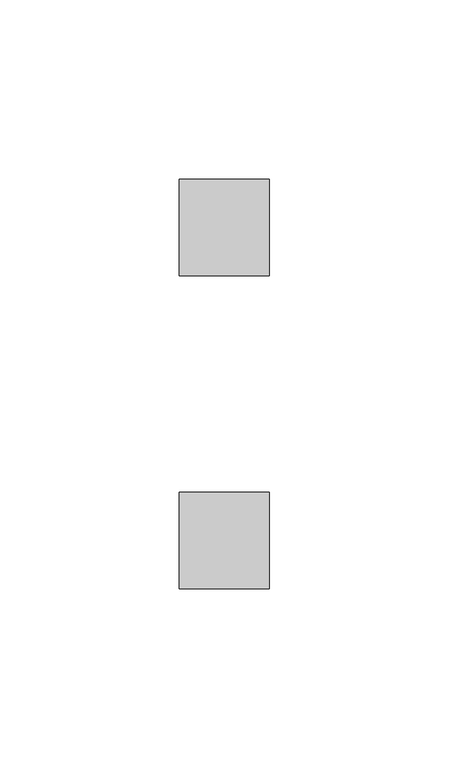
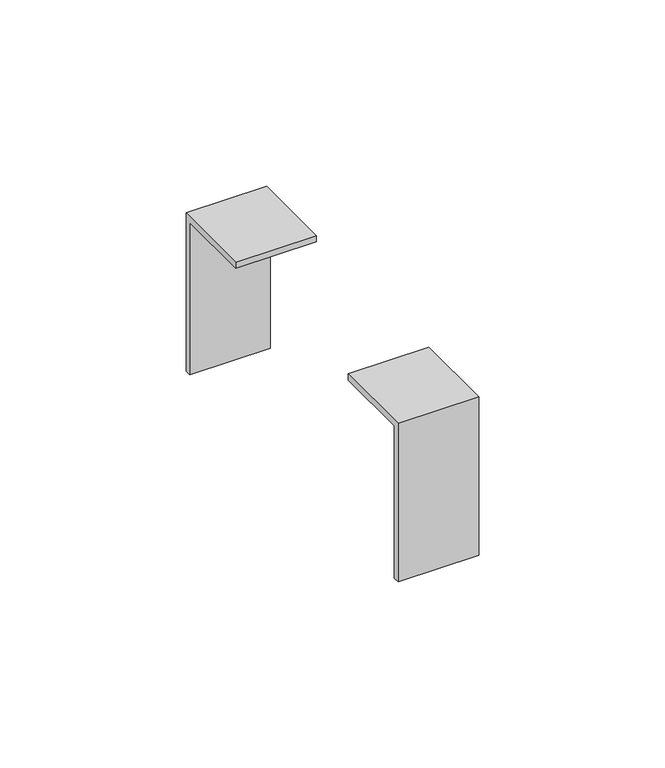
"""IFC4 building model written with IfcOpenShell, lengths in millimetres: cable carrier fitting geometry, КНС_НакладкаНаСтыкПрофилейКоробов_ILF_DKC : Белый."""

from ifc_helpers import new_model, si_unit, frame, origin, place, context, project, spatial, polyline, outline, extrude, source, transform, mapped, element, save


def cable_carrier_fitting_2b1ad8d1(model_context):
    return source(origin(), model_context, "Body", "SweptSolid", [
        extrude(outline(polyline([(57.0, -25.0), (55.0, -25.0), (55.0, 25.0), (30.2, 25.0), (30.2, 27.0), (57.0, 27.0), (57.0, -25.0)])), frame((-12.5, 0.0, 0.0), z_axis=(1.0, 0.0, 0.0), x_axis=(0.0, 1.0, 0.0)), (0.0, 0.0, 1.0), 25.0),
        extrude(outline(polyline([(-57.0, -25.0), (-57.0, 27.0), (-30.2, 27.0), (-30.2, 25.0), (-55.0, 25.0), (-55.0, -25.0), (-57.0, -25.0)])), frame((-12.5, 0.0, 0.0), z_axis=(1.0, 0.0, 0.0), x_axis=(0.0, 1.0, 0.0)), (0.0, 0.0, 1.0), 25.0),
    ])


if __name__ == "__main__":
    model = new_model("IFC4")
    model_context = context("Model", 3, world=origin())
    ifc_project = project(units=[si_unit("LENGTHUNIT", "METRE", prefix="MILLI")], contexts=[model_context])
    site = spatial("IfcSite", under=ifc_project)
    building = spatial("IfcBuilding", under=site)
    placement = place(None, origin())
    cable_carrier_fitting_shape = cable_carrier_fitting_2b1ad8d1(model_context)
    element("IfcCableCarrierFitting", 1, ObjectType="КНС_НакладкаНаСтыкПрофилейКоробов_ILF_DKC : Белый", at=placement, inside=building, context=model_context, shape_type="MappedRepresentation", body=[
        mapped(cable_carrier_fitting_shape, transform((0.0, 0.0, 0.0), x_axis=(1.0, 0.0, 0.0), y_axis=(0.0, 1.0, 0.0), z_axis=(0.0, 0.0, 1.0))),
    ])
    save(model, "model.ifc")
